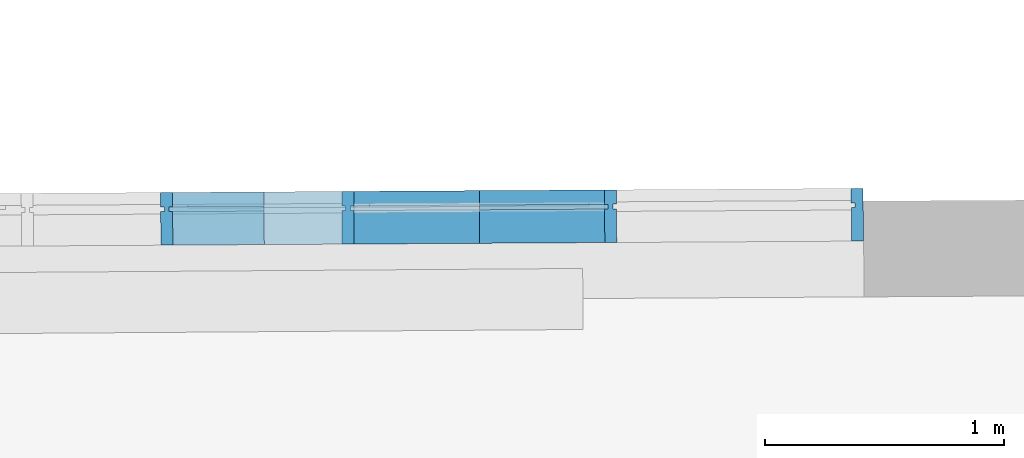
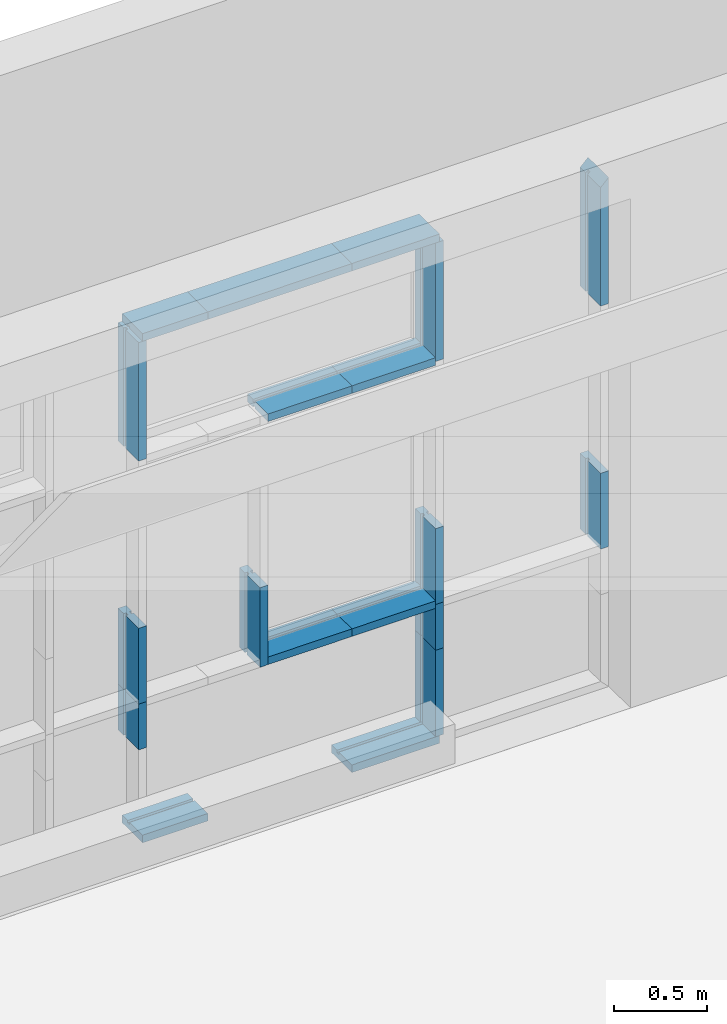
# One storey, part 164 of 196: 19 building element parts, 1 element without a shape of its own.
"""IFC2X3 building model written with IfcOpenShell, lengths in metres."""

import ifcopenshell
import ifcopenshell.guid

model = None  # the IFC model being written
_history = None  # IfcOwnerHistory: only IFC2X3 demands one
_inside = {}  # id of a spatial element -> (the spatial element, [elements in it])
_under = {}  # id of a project, library or spatial element -> (it, [spatial elements below it])
_declared = {}  # id of a project -> (the project, [libraries it declares])
_typed = {}  # id of a type object -> (the type object, [elements of that type])
_made_of = {}  # id of a material, layer set ... -> (it, [elements and type objects made of it])


def new_model(schema):
    """Start an empty IFC model of exactly this schema.

    Asked for "IFC4X3", IfcOpenShell would pick the latest addendum, in which some entities
    have other attributes; the version numbers below select the first issue.
    IFC2X3 requires an IfcOwnerHistory on every rooted entity: one is made here for all.
    """
    global model, _history
    if schema == "IFC4X3":
        model = ifcopenshell.file(schema_version=(4, 3, 0, 0))
    else:
        model = ifcopenshell.file(schema=schema)
    _inside.clear()
    _under.clear()
    _declared.clear()
    _typed.clear()
    _made_of.clear()
    _history = None
    if model.schema == "IFC2X3":
        org = make("IfcOrganization", Name="unknown")
        user = make(
            "IfcPersonAndOrganization",
            ThePerson=make("IfcPerson", FamilyName="unknown"),
            TheOrganization=org,
        )
        app = make(
            "IfcApplication",
            ApplicationDeveloper=org,
            Version="unknown",
            ApplicationFullName="unknown",
            ApplicationIdentifier="unknown",
        )
        _history = make(
            "IfcOwnerHistory",
            OwningUser=user,
            OwningApplication=app,
            ChangeAction="ADDED",
            CreationDate=0,
        )
    return model


def make(cls, **values):
    """One entity of the class cls with the attributes given. An attribute that is None is left unset."""
    return model.create_entity(
        cls, **{name: value for name, value in values.items() if value is not None}
    )


def entity(cls, *values):
    """Any entity or typed value of the class cls, its attributes in the order of the schema. None: left unset."""
    e = model.create_entity(cls)
    for i, value in enumerate(values):
        if value is not None:
            e[i] = value
    return e


def rooted(cls, **values):
    """An entity with a GlobalId (a new one), such as an element, a storey or a relation."""
    return make(cls, GlobalId=ifcopenshell.guid.new(), OwnerHistory=_history, **values)


def si_unit(unit_type, name, prefix=None):
    """IfcSIUnit, for example si_unit("LENGTHUNIT", "METRE", prefix="MILLI")."""
    return make("IfcSIUnit", UnitType=unit_type, Prefix=prefix, Name=name)


def converted_unit(unit_type, name, factor, base, dimensions=None, offset=None):
    """IfcConversionBasedUnit, such as the inch: factor (a typed value) times the base unit."""
    return make(
        "IfcConversionBasedUnit"
        if offset is None
        else "IfcConversionBasedUnitWithOffset",
        ConversionOffset=offset,
        Dimensions=None
        if dimensions is None
        else entity("IfcDimensionalExponents", *dimensions),
        UnitType=unit_type,
        Name=name,
        ConversionFactor=make(
            "IfcMeasureWithUnit", ValueComponent=factor, UnitComponent=base
        ),
    )


def derived_unit(unit_type, elements):
    """IfcDerivedUnit: a product of units, each with its exponent."""
    return make(
        "IfcDerivedUnit",
        Elements=[
            make("IfcDerivedUnitElement", Unit=unit, Exponent=power)
            for unit, power in elements
        ],
        UnitType=unit_type,
    )


def money_unit(currency):
    """IfcMonetaryUnit."""
    return make("IfcMonetaryUnit", Currency=currency)


def assignment(units):
    """IfcUnitAssignment: the units of a project."""
    return None if units is None else make("IfcUnitAssignment", Units=units)


def point(xyz):
    """IfcCartesianPoint."""
    return None if xyz is None else make("IfcCartesianPoint", Coordinates=xyz)


def direction(xyz):
    """IfcDirection."""
    return None if xyz is None else make("IfcDirection", DirectionRatios=xyz)


def frame(location, z_axis=None, x_axis=None):
    """IfcAxis2Placement3D, a coordinate frame: its origin and axes. An axis left out is left unset."""
    return make(
        "IfcAxis2Placement3D",
        Location=point(location),
        Axis=direction(z_axis),
        RefDirection=direction(x_axis),
    )


def origin_with_axes():
    """The frame at (0, 0, 0) with the z axis (0, 0, 1) and the x axis (1, 0, 0) written out."""
    return frame((0.0, 0.0, 0.0), z_axis=(0.0, 0.0, 1.0), x_axis=(1.0, 0.0, 0.0))


def place(relative_to, where):
    """IfcLocalPlacement: puts the frame where relative to a parent placement (None: the world)."""
    return make(
        "IfcLocalPlacement", PlacementRelTo=relative_to, RelativePlacement=where
    )


def context(
    kind, dimensions, precision=None, world=None, true_north=None, identifier=None
):
    """IfcGeometricRepresentationContext, for example the 3D "Model" context."""
    return make(
        "IfcGeometricRepresentationContext",
        ContextIdentifier=identifier,
        ContextType=kind,
        CoordinateSpaceDimension=dimensions,
        Precision=precision,
        WorldCoordinateSystem=world,
        TrueNorth=true_north,
    )


def subcontext(parent, identifier, kind, view, scale=None):
    """IfcGeometricRepresentationSubContext, for example "Body" below "Model"."""
    return make(
        "IfcGeometricRepresentationSubContext",
        ContextIdentifier=identifier,
        ContextType=kind,
        ParentContext=parent,
        TargetScale=scale,
        TargetView=view,
    )


def project(units=None, contexts=None):
    """IfcProject with its units and contexts."""
    return rooted(
        "IfcProject",
        Name="project",
        RepresentationContexts=contexts,
        UnitsInContext=assignment(units),
    )


def spatial(cls, under=None, at=None, **own):
    """A site, building, storey or space (cls), placed at a placement, below another one or the project."""
    s = rooted(cls, ObjectPlacement=at, **own)
    if under is not None:
        _under.setdefault(under.id(), (under, []))[1].append(s)
    return s


def faces_of(points, faces, orient=None, outer=None):
    """IfcFace entities. A face is a list of loops; a loop is a list of indices into points, from 0.

    orient and outer hold one flag for each loop. By default every Orientation is true, the
    first loop of a face is its IfcFaceOuterBound and the others are IfcFaceBound.
    """
    made = []
    for i, loops in enumerate(faces):
        bounds = []
        for j, loop in enumerate(loops):
            is_outer = j == 0 if outer is None else outer[i][j]
            bounds.append(
                make(
                    "IfcFaceOuterBound" if is_outer else "IfcFaceBound",
                    Bound=make("IfcPolyLoop", Polygon=[points[k] for k in loop]),
                    Orientation=True if orient is None else orient[i][j],
                )
            )
        made.append(make("IfcFace", Bounds=bounds))
    return made


def faceted_brep(points, faces, orient=None, outer=None, voids=None):
    """IfcFacetedBrep: a solid bounded by flat faces; with voids (closed shells), ...WithVoids."""
    shared = [point(p) for p in points]
    hull = make("IfcClosedShell", CfsFaces=faces_of(shared, faces, orient, outer))
    if voids is None:
        return make("IfcFacetedBrep", Outer=hull)
    return make(
        "IfcFacetedBrepWithVoids",
        Outer=hull,
        Voids=[
            make(cls, CfsFaces=faces_of(shared, fs, o, b)) for cls, fs, o, b in voids
        ],
    )


def shape(context_of_items, identifier, shape_type, items):
    """IfcShapeRepresentation: the items that make up one representation, for example the "Body"."""
    return make(
        "IfcShapeRepresentation",
        ContextOfItems=context_of_items,
        RepresentationIdentifier=identifier,
        RepresentationType=shape_type,
        Items=items,
    )


def material(Name=None, Category=None):
    """IfcMaterial."""
    return make("IfcMaterial", Name=Name, Category=Category)


def made_of(thing, what):
    """Note that an element or type object is made of a material, layer set ...; save() writes the relation."""
    if what is not None:
        _made_of.setdefault(what.id(), (what, []))[1].append(thing)
    return thing


def type_object(cls, material=None, **own):
    """A type object (cls), such as IfcWallType, which elements share."""
    return made_of(rooted(cls, **own), material)


def element(
    cls,
    number,
    at=None,
    inside=None,
    cuts=None,
    type_object=None,
    material=None,
    context=None,
    identifier="Body",
    shape_type=None,
    held_by="IfcProductDefinitionShape",
    body=None,
    shapes=None,
    **own,
):
    """One element of the class cls, such as IfcWall. Its Tag is "e" and its number.

    at: its placement. inside: the storey or other place that contains it. cuts: it is an
    opening in that element (IfcRelVoidsElement). A single representation is given by context,
    identifier, shape_type and body (its items); several are given by shapes. held_by: the class
    of the entity that holds the representations. save() writes the other relations.
    """
    e = rooted(cls, Tag="e%d" % number, ObjectPlacement=at, **own)
    if body is not None:
        shapes = [shape(context, identifier, shape_type, body)]
    if shapes is not None:
        e.Representation = make(held_by, Representations=shapes)
    if inside is not None:
        _inside.setdefault(inside.id(), (inside, []))[1].append(e)
    if cuts is not None:
        rooted(
            "IfcRelVoidsElement", RelatingBuildingElement=cuts, RelatedOpeningElement=e
        )
    if type_object is not None:
        _typed.setdefault(type_object.id(), (type_object, []))[1].append(e)
    return made_of(e, material)


def aggregate(whole, parts):
    """IfcRelAggregates: a whole, such as a stair, and the parts it consists of."""
    return rooted("IfcRelAggregates", RelatingObject=whole, RelatedObjects=parts)


def save(model, path):
    """Write the relations noted so far, then the file.

    IfcRelAggregates (storeys below a building ...), IfcRelContainedInSpatialStructure (elements
    in a storey), IfcRelDefinesByType, IfcRelAssociatesMaterial and IfcRelDeclares: one each for
    every whole, place, type object, material and project.
    """
    for whole, parts in _under.values():
        aggregate(whole, parts)
    for where, things in _inside.values():
        rooted(
            "IfcRelContainedInSpatialStructure",
            RelatedElements=things,
            RelatingStructure=where,
        )
    for kind, things in _typed.values():
        rooted("IfcRelDefinesByType", RelatedObjects=things, RelatingType=kind)
    for what, things in _made_of.values():
        rooted("IfcRelAssociatesMaterial", RelatedObjects=things, RelatingMaterial=what)
    for by, libraries in _declared.values():
        rooted("IfcRelDeclares", RelatingContext=by, RelatedDefinitions=libraries)
    model.write(path)


model = new_model("IFC2X3")

# Units and contexts
model_context = context("Model", 3, precision=1e-05, world=origin_with_axes(), true_north=direction((0.0, 1.0)))
body_context = subcontext(model_context, "Body", "Model", "MODEL_VIEW")
ifc_project = project(units=[si_unit("LENGTHUNIT", "METRE"), si_unit("AREAUNIT", "SQUARE_METRE"), si_unit("VOLUMEUNIT", "CUBIC_METRE"), converted_unit("PLANEANGLEUNIT", "DEGREE", entity("IfcPlaneAngleMeasure", 0.0174532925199), si_unit("PLANEANGLEUNIT", "RADIAN"), dimensions=[0, 0, 0, 0, 0, 0, 0]), money_unit("EUR"), converted_unit("TIMEUNIT", "Year", entity("IfcTimeMeasure", 31556926.0), si_unit("TIMEUNIT", "SECOND"), dimensions=[0, 0, 1, 0, 0, 0, 0]), si_unit("MASSUNIT", "GRAM", prefix="KILO"), si_unit("THERMODYNAMICTEMPERATUREUNIT", "DEGREE_CELSIUS"), si_unit("LUMINOUSINTENSITYUNIT", "LUMEN"), si_unit("ENERGYUNIT", "JOULE", prefix="MEGA"), derived_unit("THERMALCONDUCTANCEUNIT", [(si_unit("POWERUNIT", "WATT"), 1), (si_unit("LENGTHUNIT", "METRE"), -1), (si_unit("THERMODYNAMICTEMPERATUREUNIT", "KELVIN"), -1)]), derived_unit("SPECIFICHEATCAPACITYUNIT", [(si_unit("ENERGYUNIT", "JOULE"), 1), (si_unit("MASSUNIT", "GRAM", prefix="KILO"), -1), (si_unit("THERMODYNAMICTEMPERATUREUNIT", "KELVIN"), -1)]), derived_unit("MASSDENSITYUNIT", [(si_unit("MASSUNIT", "GRAM", prefix="KILO"), 1), (si_unit("VOLUMEUNIT", "CUBIC_METRE"), -1)])], contexts=[model_context])

# Site, building, storey
site_placement = place(None, origin_with_axes())
site = spatial("IfcSite", under=ifc_project, at=site_placement, Name="Gelände", CompositionType="ELEMENT")
building_placement = place(site_placement, origin_with_axes())
building = spatial("IfcBuilding", under=site, at=building_placement, Name="Gebäude", CompositionType="ELEMENT")
storey_placement = place(building_placement, frame((0.0, 0.0, -3.0), z_axis=(0.0, 0.0, 1.0), x_axis=(1.0, 0.0, 0.0)))
storey = spatial("IfcBuildingStorey", under=building, at=storey_placement, Name="KELLERGESCHOSS", CompositionType="ELEMENT", Elevation=-3.0)

# Proxy, building element parts
building_element_proxy_type = type_object("IfcBuildingElementProxyType", Name="Fassadentyp", PredefinedType="NOTDEFINED")
proxy_placement = place(storey_placement, frame((-23.6479994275, 53.9595773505, 0.421025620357), z_axis=(0.0, 0.0, 1.0), x_axis=(1.0, 0.0, 0.0)))
proxy = element("IfcBuildingElementProxy", 1, at=proxy_placement, inside=storey, type_object=building_element_proxy_type, Name="Fassade-002")
ifc_material = material(Name="53_Metall, Aluminium")
building_element_part_1_placement = place(proxy_placement, origin_with_axes())
building_element_part_1 = element("IfcBuildingElementPart", 2, at=building_element_part_1_placement, material=ifc_material, Name="53_Metall, Aluminium", context=body_context, shape_type="Brep", body=[
    faceted_brep([(1.91695860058, 0.00132457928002, 2.50999998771), (1.91695860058, 0.00132457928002, 2.49499998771), (1.91778566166, -0.138672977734, 2.49499998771), (1.91778566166, -0.138672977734, 2.54499998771), (1.91695860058, 0.00132457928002, 2.54499998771), (1.91695860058, 0.00132457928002, 2.52999998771), (1.91684044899, 0.0213242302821, 2.52999998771), (1.91684044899, 0.0213242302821, 2.54499998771), (1.91648599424, 0.0813231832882, 2.54499998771), (1.91648599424, 0.0813231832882, 2.49499998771), (1.91684044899, 0.0213242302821, 2.49499998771), (1.91684044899, 0.0213242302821, 2.50999998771), (2.44175495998, 0.00442490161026, 2.50999998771), (2.44175495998, 0.00442490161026, 2.49499998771), (2.44258201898, -0.135572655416, 2.49499998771), (2.44258201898, -0.135572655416, 2.54499998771), (2.44175495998, 0.00442490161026, 2.54499998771), (2.44175495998, 0.00442490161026, 2.52999998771), (2.44163680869, 0.0244245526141, 2.52999998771), (2.44163680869, 0.0244245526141, 2.54499998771), (2.44128235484, 0.0844235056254, 2.54499998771), (2.44128235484, 0.0844235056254, 2.49499998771), (2.44163680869, 0.0244245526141, 2.49499998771), (2.44163680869, 0.0244245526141, 2.50999998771)], [[[0, 1, 2, 3, 4, 5, 6, 7, 8, 9, 10, 11]], [[1, 0, 12, 13]], [[1, 13, 14, 2]], [[3, 2, 14, 15]], [[4, 3, 15, 16]], [[4, 16, 17, 5]], [[5, 17, 18, 6]], [[7, 6, 18, 19]], [[19, 20, 8, 7]], [[9, 8, 20, 21]], [[22, 10, 9, 21]], [[11, 10, 22, 23]], [[0, 11, 23, 12]], [[23, 22, 21, 20, 19, 18, 17, 16, 15, 14, 13, 12]]]),
])
building_element_part_2_placement = place(proxy_placement, origin_with_axes())
building_element_part_2 = element("IfcBuildingElementPart", 3, at=building_element_part_2_placement, material=ifc_material, Name="53_Metall, Aluminium", context=body_context, shape_type="Brep", body=[
    faceted_brep([(2.44175495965, 0.00442490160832, 0.910851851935), (2.44175495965, 0.00442490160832, 0.895851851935), (2.44258201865, -0.135572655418, 0.895851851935), (2.44258201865, -0.135572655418, 0.945851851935), (2.44175495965, 0.00442490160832, 0.945851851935), (2.44175495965, 0.00442490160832, 0.930851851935), (2.44163680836, 0.0244245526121, 0.930851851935), (2.44163680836, 0.0244245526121, 0.945851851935), (2.44128235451, 0.0844235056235, 0.945851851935), (2.44128235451, 0.0844235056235, 0.895851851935), (2.44163680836, 0.0244245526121, 0.895851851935), (2.44163680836, 0.0244245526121, 0.910851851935), (2.96439194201, 0.00751246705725, 0.910851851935), (2.96439194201, 0.00751246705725, 0.895851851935), (2.96521900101, -0.132485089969, 0.895851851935), (2.96521900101, -0.132485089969, 0.945851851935), (2.96439194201, 0.00751246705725, 0.945851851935), (2.96439194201, 0.00751246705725, 0.930851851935), (2.96427379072, 0.027512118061, 0.930851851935), (2.96427379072, 0.027512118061, 0.945851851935), (2.96391933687, 0.0875110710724, 0.945851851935), (2.96391933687, 0.0875110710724, 0.895851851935), (2.96427379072, 0.027512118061, 0.895851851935), (2.96427379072, 0.027512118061, 0.910851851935)], [[[0, 1, 2, 3, 4, 5, 6, 7, 8, 9, 10, 11]], [[1, 0, 12, 13]], [[1, 13, 14, 2]], [[2, 14, 15, 3]], [[4, 3, 15, 16]], [[4, 16, 17, 5]], [[5, 17, 18, 6]], [[7, 6, 18, 19]], [[19, 20, 8, 7]], [[8, 20, 21, 9]], [[22, 10, 9, 21]], [[11, 10, 22, 23]], [[0, 11, 23, 12]], [[23, 22, 21, 20, 19, 18, 17, 16, 15, 14, 13, 12]]]),
])
building_element_part_3_placement = place(proxy_placement, origin_with_axes())
building_element_part_3 = element("IfcBuildingElementPart", 4, at=building_element_part_3_placement, material=ifc_material, Name="53_Metall, Aluminium", context=body_context, shape_type="Brep", body=[
    faceted_brep([(2.97939168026, 0.00760108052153, 1.41999999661), (2.96439194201, 0.00751246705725, 1.41999999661), (2.96521900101, -0.132485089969, 1.41999999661), (3.01521812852, -0.132189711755, 1.41999999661), (3.01439106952, 0.00780784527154, 1.41999999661), (2.99939133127, 0.00771923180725, 1.41999999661), (2.99927317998, 0.0277188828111, 1.41999999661), (3.01427291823, 0.0278074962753, 1.41999999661), (3.01391846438, 0.0878064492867, 1.41999999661), (2.96391933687, 0.0875110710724, 1.41999999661), (2.96427379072, 0.027512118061, 1.41999999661), (2.97927352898, 0.0276007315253, 1.41999999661), (2.97939168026, 0.00760108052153, 0.920851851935), (2.96439194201, 0.00751246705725, 0.920851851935), (2.96521900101, -0.132485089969, 0.920851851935), (3.01521812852, -0.132189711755, 0.920851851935), (3.01439106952, 0.00780784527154, 0.920851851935), (2.99939133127, 0.00771923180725, 0.920851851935), (2.99927317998, 0.0277188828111, 0.920851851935), (3.01427291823, 0.0278074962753, 0.920851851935), (3.01391846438, 0.0878064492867, 0.920851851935), (2.96391933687, 0.0875110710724, 0.920851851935), (2.96427379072, 0.027512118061, 0.920851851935), (2.97927352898, 0.0276007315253, 0.920851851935)], [[[0, 1, 2, 3, 4, 5, 6, 7, 8, 9, 10, 11]], [[1, 0, 12, 13]], [[1, 13, 14, 2]], [[3, 2, 14, 15]], [[4, 3, 15, 16]], [[4, 16, 17, 5]], [[5, 17, 18, 6]], [[7, 6, 18, 19]], [[19, 20, 8, 7]], [[9, 8, 20, 21]], [[22, 10, 9, 21]], [[11, 10, 22, 23]], [[0, 11, 23, 12]], [[23, 22, 21, 20, 19, 18, 17, 16, 15, 14, 13, 12]]]),
])
building_element_part_4_placement = place(proxy_placement, origin_with_axes())
building_element_part_4 = element("IfcBuildingElementPart", 5, at=building_element_part_4_placement, material=ifc_material, Name="53_Metall, Aluminium", context=body_context, shape_type="Brep", body=[
    faceted_brep([(1.91695860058, 0.00132457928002, 0.910851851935), (1.91695860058, 0.00132457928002, 0.895851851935), (1.91778566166, -0.138672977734, 0.895851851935), (1.91778566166, -0.138672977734, 0.945851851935), (1.91695860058, 0.00132457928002, 0.945851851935), (1.91695860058, 0.00132457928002, 0.930851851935), (1.91684044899, 0.0213242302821, 0.930851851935), (1.91684044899, 0.0213242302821, 0.945851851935), (1.91648599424, 0.0813231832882, 0.945851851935), (1.91648599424, 0.0813231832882, 0.895851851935), (1.91684044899, 0.0213242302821, 0.895851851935), (1.91684044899, 0.0213242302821, 0.910851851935), (2.44175495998, 0.00442490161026, 0.910851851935), (2.44175495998, 0.00442490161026, 0.895851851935), (2.44258201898, -0.135572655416, 0.895851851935), (2.44258201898, -0.135572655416, 0.945851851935), (2.44175495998, 0.00442490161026, 0.945851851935), (2.44175495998, 0.00442490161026, 0.930851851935), (2.44163680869, 0.0244245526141, 0.930851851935), (2.44163680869, 0.0244245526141, 0.945851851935), (2.44128235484, 0.0844235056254, 0.945851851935), (2.44128235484, 0.0844235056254, 0.895851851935), (2.44163680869, 0.0244245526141, 0.895851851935), (2.44163680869, 0.0244245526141, 0.910851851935)], [[[0, 1, 2, 3, 4, 5, 6, 7, 8, 9, 10, 11]], [[1, 0, 12, 13]], [[1, 13, 14, 2]], [[3, 2, 14, 15]], [[4, 3, 15, 16]], [[4, 16, 17, 5]], [[5, 17, 18, 6]], [[7, 6, 18, 19]], [[19, 20, 8, 7]], [[9, 8, 20, 21]], [[22, 10, 9, 21]], [[11, 10, 22, 23]], [[0, 11, 23, 12]], [[23, 22, 21, 20, 19, 18, 17, 16, 15, 14, 13, 12]]]),
])
building_element_part_5_placement = place(proxy_placement, origin_with_axes())
building_element_part_5 = element("IfcBuildingElementPart", 6, at=building_element_part_5_placement, material=ifc_material, Name="53_Metall, Aluminium", context=body_context, shape_type="Brep", body=[
    faceted_brep([(2.97939168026, 0.00760108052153, 0.620000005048), (2.96439194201, 0.00751246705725, 0.620000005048), (2.96521900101, -0.132485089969, 0.620000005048), (3.01521812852, -0.132189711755, 0.620000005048), (3.01439106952, 0.00780784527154, 0.620000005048), (2.99939133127, 0.00771923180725, 0.620000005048), (2.99927317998, 0.0277188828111, 0.620000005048), (3.01427291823, 0.0278074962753, 0.620000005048), (3.01391846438, 0.0878064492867, 0.620000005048), (2.96391933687, 0.0875110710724, 0.620000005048), (2.96427379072, 0.027512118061, 0.620000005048), (2.97927352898, 0.0276007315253, 0.620000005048), (2.97939168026, 0.00760108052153, 0.049999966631), (2.96439194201, 0.00751246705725, 0.049999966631), (2.96521900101, -0.132485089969, 0.0499999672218), (3.01521812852, -0.132189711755, 0.0499999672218), (3.01439106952, 0.00780784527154, 0.049999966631), (2.99939133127, 0.00771923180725, 0.049999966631), (2.99927317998, 0.0277188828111, 0.0499999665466), (3.01427291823, 0.0278074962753, 0.0499999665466), (3.01391846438, 0.0878064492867, 0.0499999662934), (2.96391933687, 0.0875110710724, 0.0499999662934), (2.96427379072, 0.027512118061, 0.0499999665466), (2.97927352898, 0.0276007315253, 0.0499999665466)], [[[0, 1, 2, 3, 4, 5, 6, 7, 8, 9, 10, 11]], [[1, 0, 12, 13]], [[1, 13, 14, 2]], [[2, 14, 15, 3]], [[4, 3, 15, 16]], [[4, 16, 17, 5]], [[5, 17, 18, 6]], [[7, 6, 18, 19]], [[19, 20, 8, 7]], [[8, 20, 21, 9]], [[22, 10, 9, 21]], [[11, 10, 22, 23]], [[0, 11, 23, 12]], [[23, 22, 21, 20, 19, 18, 17, 16, 15, 14, 13, 12]]]),
])
building_element_part_6_placement = place(proxy_placement, origin_with_axes())
building_element_part_6 = element("IfcBuildingElementPart", 7, at=building_element_part_6_placement, material=ifc_material, Name="53_Metall, Aluminium", context=body_context, shape_type="Brep", body=[
    faceted_brep([(2.97939168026, 0.00760108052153, 0.920851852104), (2.96439194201, 0.00751246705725, 0.920851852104), (2.96521900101, -0.132485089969, 0.920851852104), (3.01521812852, -0.132189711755, 0.920851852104), (3.01439106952, 0.00780784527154, 0.920851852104), (2.99939133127, 0.00771923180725, 0.920851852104), (2.99927317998, 0.0277188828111, 0.920851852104), (3.01427291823, 0.0278074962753, 0.920851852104), (3.01391846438, 0.0878064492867, 0.920851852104), (2.96391933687, 0.0875110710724, 0.920851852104), (2.96427379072, 0.027512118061, 0.920851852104), (2.97927352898, 0.0276007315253, 0.920851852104), (2.97939168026, 0.00760108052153, 0.619999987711), (2.96439194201, 0.00751246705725, 0.619999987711), (2.96521900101, -0.132485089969, 0.619999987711), (3.01521812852, -0.132189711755, 0.619999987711), (3.01439106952, 0.00780784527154, 0.619999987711), (2.99939133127, 0.00771923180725, 0.619999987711), (2.99927317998, 0.0277188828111, 0.619999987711), (3.01427291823, 0.0278074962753, 0.619999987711), (3.01391846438, 0.0878064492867, 0.619999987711), (2.96391933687, 0.0875110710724, 0.619999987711), (2.96427379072, 0.027512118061, 0.619999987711), (2.97927352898, 0.0276007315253, 0.619999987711)], [[[0, 1, 2, 3, 4, 5, 6, 7, 8, 9, 10, 11]], [[1, 0, 12, 13]], [[1, 13, 14, 2]], [[3, 2, 14, 15]], [[4, 3, 15, 16]], [[4, 16, 17, 5]], [[5, 17, 18, 6]], [[7, 6, 18, 19]], [[19, 20, 8, 7]], [[9, 8, 20, 21]], [[22, 10, 9, 21]], [[11, 10, 22, 23]], [[0, 11, 23, 12]], [[23, 22, 21, 20, 19, 18, 17, 16, 15, 14, 13, 12]]]),
])
building_element_part_7_placement = place(proxy_placement, origin_with_axes())
building_element_part_7 = element("IfcBuildingElementPart", 8, at=building_element_part_7_placement, material=ifc_material, Name="53_Metall, Aluminium", context=body_context, shape_type="Brep", body=[
    faceted_brep([(1.12484163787, -0.00335498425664, 3.2999998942), (1.10984189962, -0.00344359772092, 3.2999998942), (1.11066895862, -0.143441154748, 3.2999998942), (1.16066808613, -0.143145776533, 3.2999998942), (1.15984102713, -0.00314821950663, 3.2999998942), (1.14484128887, -0.00323683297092, 3.2999998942), (1.14472313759, 0.0167628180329, 3.2999998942), (1.15972287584, 0.0168514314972, 3.2999998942), (1.15936842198, 0.0768503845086, 3.2999998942), (1.10936929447, 0.0765550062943, 3.2999998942), (1.10972374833, 0.0165560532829, 3.2999998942), (1.12472348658, 0.0166446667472, 3.2999998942), (1.12484163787, -0.00335498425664, 2.51999998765), (1.10984189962, -0.00344359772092, 2.51999998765), (1.11066895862, -0.143441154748, 2.51999998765), (1.16066808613, -0.143145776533, 2.51999998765), (1.15984102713, -0.00314821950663, 2.51999998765), (1.14484128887, -0.00323683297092, 2.51999998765), (1.14472313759, 0.0167628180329, 2.51999998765), (1.15972287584, 0.0168514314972, 2.51999998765), (1.15936842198, 0.0768503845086, 2.51999998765), (1.10936929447, 0.0765550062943, 2.51999998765), (1.10972374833, 0.0165560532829, 2.51999998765), (1.12472348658, 0.0166446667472, 2.51999998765)], [[[0, 1, 2, 3, 4, 5, 6, 7, 8, 9, 10, 11]], [[1, 0, 12, 13]], [[1, 13, 14, 2]], [[3, 2, 14, 15]], [[4, 3, 15, 16]], [[4, 16, 17, 5]], [[5, 17, 18, 6]], [[7, 6, 18, 19]], [[19, 20, 8, 7]], [[9, 8, 20, 21]], [[22, 10, 9, 21]], [[11, 10, 22, 23]], [[0, 11, 23, 12]], [[23, 22, 21, 20, 19, 18, 17, 16, 15, 14, 13, 12]]]),
])
building_element_part_8_placement = place(proxy_placement, origin_with_axes())
building_element_part_8 = element("IfcBuildingElementPart", 9, at=building_element_part_8_placement, material=ifc_material, Name="53_Metall, Aluminium", context=body_context, shape_type="Brep", body=[
    faceted_brep([(1.88195922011, 0.00111781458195, 1.41999999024), (1.86695948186, 0.00102920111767, 1.41999999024), (1.86778654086, -0.138968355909, 1.41999999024), (1.91778566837, -0.138672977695, 1.41999999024), (1.91695860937, 0.00132457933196, 1.41999999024), (1.90195887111, 0.00123596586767, 1.41999999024), (1.90184071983, 0.0212356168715, 1.41999999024), (1.91684045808, 0.0213242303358, 1.41999999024), (1.91648600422, 0.0813231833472, 1.41999999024), (1.86648687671, 0.0810278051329, 1.41999999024), (1.86684133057, 0.0210288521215, 1.41999999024), (1.88184106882, 0.0211174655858, 1.41999999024), (1.88195922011, 0.00111781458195, 0.895851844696), (1.86695948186, 0.00102920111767, 0.895851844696), (1.86778654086, -0.138968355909, 0.895851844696), (1.91778566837, -0.138672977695, 0.895851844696), (1.91695860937, 0.00132457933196, 0.895851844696), (1.90195887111, 0.00123596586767, 0.895851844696), (1.90184071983, 0.0212356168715, 0.895851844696), (1.91684045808, 0.0213242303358, 0.895851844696), (1.91648600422, 0.0813231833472, 0.895851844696), (1.86648687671, 0.0810278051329, 0.895851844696), (1.86684133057, 0.0210288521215, 0.895851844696), (1.88184106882, 0.0211174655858, 0.895851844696)], [[[0, 1, 2, 3, 4, 5, 6, 7, 8, 9, 10, 11]], [[1, 0, 12, 13]], [[1, 13, 14, 2]], [[3, 2, 14, 15]], [[4, 3, 15, 16]], [[4, 16, 17, 5]], [[5, 17, 18, 6]], [[7, 6, 18, 19]], [[19, 20, 8, 7]], [[9, 8, 20, 21]], [[22, 10, 9, 21]], [[11, 10, 22, 23]], [[0, 11, 23, 12]], [[23, 22, 21, 20, 19, 18, 17, 16, 15, 14, 13, 12]]]),
])
building_element_part_9_placement = place(proxy_placement, origin_with_axes())
building_element_part_9 = element("IfcBuildingElementPart", 10, at=building_element_part_9_placement, material=ifc_material, Name="53_Metall, Aluminium", context=body_context, shape_type="Brep", body=[
    faceted_brep([(1.13484146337, -0.00329590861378, 3.31499989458), (1.13484146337, -0.00329590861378, 3.29999989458), (1.13566852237, -0.14329346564, 3.29999989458), (1.13566852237, -0.14329346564, 3.34999989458), (1.13436885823, 0.0767026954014, 3.34999989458), (1.13436885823, 0.0767026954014, 3.29999989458), (1.13472331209, 0.01670374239, 3.29999989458), (1.13472331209, 0.01670374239, 3.31499989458), (1.54177066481, -0.000891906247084, 3.31499989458), (1.54177066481, -0.000891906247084, 3.29999989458), (1.54259772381, -0.140889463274, 3.29999989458), (1.54259772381, -0.140889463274, 3.34999989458), (1.54129805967, 0.0791066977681, 3.34999989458), (1.54129805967, 0.0791066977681, 3.29999989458), (1.54165251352, 0.0191077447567, 3.29999989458), (1.54165251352, 0.0191077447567, 3.31499989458)], [[[0, 1, 2, 3, 4, 5, 6, 7]], [[0, 8, 9, 1]], [[9, 10, 2, 1]], [[10, 11, 3, 2]], [[11, 12, 4, 3]], [[12, 13, 5, 4]], [[6, 5, 13, 14]], [[14, 15, 7, 6]], [[7, 15, 8, 0]], [[8, 15, 14, 13, 12, 11, 10, 9]]]),
])
building_element_part_10_placement = place(proxy_placement, origin_with_axes())
building_element_part_10 = element("IfcBuildingElementPart", 11, at=building_element_part_10_placement, material=ifc_material, Name="53_Metall, Aluminium", context=body_context, shape_type="Brep", body=[
    faceted_brep([(2.44175495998, 0.00442490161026, 3.31499989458), (2.44175495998, 0.00442490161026, 3.29999989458), (2.44258201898, -0.135572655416, 3.29999989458), (2.44258201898, -0.135572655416, 3.34999989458), (2.44128235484, 0.0844235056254, 3.34999989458), (2.44128235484, 0.0844235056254, 3.29999989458), (2.44163680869, 0.0244245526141, 3.29999989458), (2.44163680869, 0.0244245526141, 3.31499989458), (2.98939150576, 0.00766015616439, 3.31499989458), (2.98939150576, 0.00766015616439, 3.29999989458), (2.99021856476, -0.132337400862, 3.29999989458), (2.99021856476, -0.132337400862, 3.34999989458), (2.98891890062, 0.0876587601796, 3.34999989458), (2.98891890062, 0.0876587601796, 3.29999989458), (2.98927335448, 0.0276598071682, 3.29999989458), (2.98927335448, 0.0276598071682, 3.31499989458)], [[[0, 1, 2, 3, 4, 5, 6, 7]], [[0, 8, 9, 1]], [[9, 10, 2, 1]], [[10, 11, 3, 2]], [[11, 12, 4, 3]], [[12, 13, 5, 4]], [[6, 5, 13, 14]], [[14, 15, 7, 6]], [[7, 15, 8, 0]], [[8, 15, 14, 13, 12, 11, 10, 9]]]),
])
building_element_part_11_placement = place(proxy_placement, origin_with_axes())
building_element_part_11 = element("IfcBuildingElementPart", 12, at=building_element_part_11_placement, material=ifc_material, Name="53_Metall, Aluminium", context=body_context, shape_type="Brep", body=[
    faceted_brep([(4.00979148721, 0.0136883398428, 1.41999999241), (3.99479174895, 0.0135997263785, 1.41999999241), (3.99561880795, -0.126397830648, 1.41999999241), (4.04561793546, -0.126102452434, 1.41999999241), (4.04431827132, 0.093893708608, 1.41999999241), (3.99431914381, 0.0935983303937, 1.41999999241), (3.99467359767, 0.0335993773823, 1.41999999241), (4.00967333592, 0.0336879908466, 1.41999999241), (4.00979148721, 0.0136883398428, 0.920851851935), (3.99479174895, 0.0135997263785, 0.920851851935), (3.99561880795, -0.126397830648, 0.920851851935), (4.04561793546, -0.126102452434, 0.920851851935), (4.04431827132, 0.093893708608, 0.920851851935), (3.99431914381, 0.0935983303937, 0.920851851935), (3.99467359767, 0.0335993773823, 0.920851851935), (4.00967333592, 0.0336879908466, 0.920851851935)], [[[0, 1, 2, 3, 4, 5, 6, 7]], [[0, 8, 9, 1]], [[9, 10, 2, 1]], [[10, 11, 3, 2]], [[11, 12, 4, 3]], [[12, 13, 5, 4]], [[6, 5, 13, 14]], [[14, 15, 7, 6]], [[7, 15, 8, 0]], [[8, 15, 14, 13, 12, 11, 10, 9]]]),
])
building_element_part_12_placement = place(proxy_placement, origin_with_axes())
building_element_part_12 = element("IfcBuildingElementPart", 13, at=building_element_part_12_placement, material=ifc_material, Name="53_Metall, Aluminium", context=body_context, shape_type="Brep", body=[
    faceted_brep([(4.00979148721, 0.0136883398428, 3.31499992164), (3.99479174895, 0.0135997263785, 3.29999992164), (3.99561880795, -0.126397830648, 3.29999992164), (4.04561793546, -0.126102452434, 3.34999992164), (4.04431827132, 0.093893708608, 3.34999992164), (3.99431914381, 0.0935983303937, 3.29999992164), (3.99467359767, 0.0335993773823, 3.29999992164), (4.00967333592, 0.0336879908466, 3.31499992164), (4.00979148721, 0.0136883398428, 2.51999998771), (3.99479174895, 0.0135997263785, 2.51999998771), (3.99561880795, -0.126397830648, 2.51999998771), (4.04561793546, -0.126102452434, 2.51999998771), (4.04431827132, 0.093893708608, 2.51999998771), (3.99431914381, 0.0935983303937, 2.51999998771), (3.99467359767, 0.0335993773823, 2.51999998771), (4.00967333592, 0.0336879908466, 2.51999998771)], [[[0, 1, 2, 3, 4, 5, 6, 7]], [[0, 8, 9, 1]], [[9, 10, 2, 1]], [[10, 11, 3, 2]], [[11, 12, 4, 3]], [[12, 13, 5, 4]], [[6, 5, 13, 14]], [[14, 15, 7, 6]], [[7, 15, 8, 0]], [[8, 15, 14, 13, 12, 11, 10, 9]]]),
])
building_element_part_13_placement = place(proxy_placement, origin_with_axes())
building_element_part_13 = element("IfcBuildingElementPart", 14, at=building_element_part_13_placement, material=ifc_material, Name="53_Metall, Aluminium", context=body_context, shape_type="Brep", body=[
    faceted_brep([(1.54177066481, -0.000891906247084, 3.31499989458), (1.54177066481, -0.000891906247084, 3.29999989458), (1.54259772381, -0.140889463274, 3.29999989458), (1.54259772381, -0.140889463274, 3.34999989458), (1.54129805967, 0.0791066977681, 3.34999989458), (1.54129805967, 0.0791066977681, 3.29999989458), (1.54165251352, 0.0191077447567, 3.29999989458), (1.54165251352, 0.0191077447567, 3.31499989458), (2.44175495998, 0.00442490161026, 3.31499989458), (2.44175495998, 0.00442490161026, 3.29999989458), (2.44258201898, -0.135572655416, 3.29999989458), (2.44258201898, -0.135572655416, 3.34999989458), (2.44128235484, 0.0844235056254, 3.34999989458), (2.44128235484, 0.0844235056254, 3.29999989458), (2.44163680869, 0.0244245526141, 3.29999989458), (2.44163680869, 0.0244245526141, 3.31499989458)], [[[0, 1, 2, 3, 4, 5, 6, 7]], [[0, 8, 9, 1]], [[9, 10, 2, 1]], [[10, 11, 3, 2]], [[11, 12, 4, 3]], [[12, 13, 5, 4]], [[6, 5, 13, 14]], [[14, 15, 7, 6]], [[7, 15, 8, 0]], [[8, 15, 14, 13, 12, 11, 10, 9]]]),
])
building_element_part_14_placement = place(proxy_placement, origin_with_axes())
building_element_part_14 = element("IfcBuildingElementPart", 15, at=building_element_part_14_placement, material=ifc_material, Name="53_Metall, Aluminium", context=body_context, shape_type="Brep", body=[
    faceted_brep([(1.13484146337, -0.00329590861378, 0.034999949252), (1.13472331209, 0.01670374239, 0.034999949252), (1.13472331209, 0.01670374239, 0.049999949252), (1.13436885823, 0.0767026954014, 0.049999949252), (1.13436885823, 0.0767026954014, -5.07479946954e-08), (1.13566852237, -0.14329346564, -5.07479946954e-08), (1.13566852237, -0.14329346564, 0.049999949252), (1.13484146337, -0.00329590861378, 0.049999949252), (1.54177066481, -0.000891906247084, 0.034999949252), (1.54165251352, 0.0191077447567, 0.034999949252), (1.54165251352, 0.0191077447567, 0.049999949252), (1.54129805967, 0.0791066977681, 0.049999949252), (1.54129805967, 0.0791066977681, -5.07479946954e-08), (1.54259772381, -0.140889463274, -5.07479946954e-08), (1.54259772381, -0.140889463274, 0.049999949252), (1.54177066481, -0.000891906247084, 0.049999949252)], [[[0, 1, 2, 3, 4, 5, 6, 7]], [[1, 0, 8, 9]], [[10, 2, 1, 9]], [[2, 10, 11, 3]], [[12, 4, 3, 11]], [[13, 5, 4, 12]], [[14, 6, 5, 13]], [[15, 7, 6, 14]], [[0, 7, 15, 8]], [[8, 15, 14, 13, 12, 11, 10, 9]]]),
])
building_element_part_15_placement = place(proxy_placement, origin_with_axes())
building_element_part_15 = element("IfcBuildingElementPart", 16, at=building_element_part_15_placement, material=ifc_material, Name="53_Metall, Aluminium", context=body_context, shape_type="Brep", body=[
    faceted_brep([(2.44175495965, 0.00442490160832, 2.50999998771), (2.44175495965, 0.00442490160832, 2.49499998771), (2.44258201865, -0.135572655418, 2.49499998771), (2.44258201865, -0.135572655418, 2.54499998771), (2.44175495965, 0.00442490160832, 2.54499998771), (2.44175495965, 0.00442490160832, 2.52999998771), (2.44163680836, 0.0244245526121, 2.52999998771), (2.44163680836, 0.0244245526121, 2.54499998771), (2.44128235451, 0.0844235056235, 2.54499998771), (2.44128235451, 0.0844235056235, 2.49499998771), (2.44163680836, 0.0244245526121, 2.49499998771), (2.44163680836, 0.0244245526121, 2.50999998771), (2.96439194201, 0.00751246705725, 2.50999998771), (2.96439194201, 0.00751246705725, 2.49499998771), (2.96521900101, -0.132485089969, 2.49499998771), (2.96521900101, -0.132485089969, 2.54499998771), (2.96439194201, 0.00751246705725, 2.54499998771), (2.96439194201, 0.00751246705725, 2.52999998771), (2.96427379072, 0.027512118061, 2.52999998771), (2.96427379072, 0.027512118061, 2.54499998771), (2.96391933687, 0.0875110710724, 2.54499998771), (2.96391933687, 0.0875110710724, 2.49499998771), (2.96427379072, 0.027512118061, 2.49499998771), (2.96427379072, 0.027512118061, 2.50999998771)], [[[0, 1, 2, 3, 4, 5, 6, 7, 8, 9, 10, 11]], [[1, 0, 12, 13]], [[1, 13, 14, 2]], [[2, 14, 15, 3]], [[4, 3, 15, 16]], [[4, 16, 17, 5]], [[5, 17, 18, 6]], [[7, 6, 18, 19]], [[19, 20, 8, 7]], [[8, 20, 21, 9]], [[22, 10, 9, 21]], [[11, 10, 22, 23]], [[0, 11, 23, 12]], [[23, 22, 21, 20, 19, 18, 17, 16, 15, 14, 13, 12]]]),
])
building_element_part_16_placement = place(proxy_placement, origin_with_axes())
building_element_part_16 = element("IfcBuildingElementPart", 17, at=building_element_part_16_placement, material=ifc_material, Name="53_Metall, Aluminium", context=body_context, shape_type="Brep", body=[
    faceted_brep([(2.44175495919, 0.00442490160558, 0.0349999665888), (2.4416368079, 0.0244245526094, 0.0349999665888), (2.4416368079, 0.0244245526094, 0.0499999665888), (2.44128235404, 0.0844235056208, 0.0499999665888), (2.44128235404, 0.0844235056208, -3.34112297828e-08), (2.44258201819, -0.135572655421, -3.34112297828e-08), (2.44258201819, -0.135572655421, 0.0499999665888), (2.44175495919, 0.00442490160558, 0.0499999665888), (2.98939150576, 0.00766015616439, 0.0349999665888), (2.98927335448, 0.0276598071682, 0.0349999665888), (2.98927335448, 0.0276598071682, 0.0499999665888), (2.98891890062, 0.0876587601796, 0.0499999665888), (2.98891890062, 0.0876587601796, -3.34112297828e-08), (2.99021856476, -0.132337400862, -3.34112297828e-08), (2.99021856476, -0.132337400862, 0.0499999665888), (2.98939150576, 0.00766015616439, 0.0499999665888)], [[[0, 1, 2, 3, 4, 5, 6, 7]], [[1, 0, 8, 9]], [[10, 2, 1, 9]], [[2, 10, 11, 3]], [[12, 4, 3, 11]], [[13, 5, 4, 12]], [[14, 6, 5, 13]], [[15, 7, 6, 14]], [[0, 7, 15, 8]], [[8, 15, 14, 13, 12, 11, 10, 9]]]),
])
building_element_part_17_placement = place(proxy_placement, origin_with_axes())
building_element_part_17 = element("IfcBuildingElementPart", 18, at=building_element_part_17_placement, material=ifc_material, Name="53_Metall, Aluminium", context=body_context, shape_type="Brep", body=[
    faceted_brep([(1.1248416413, -0.00335498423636, 0.920851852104), (1.10984190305, -0.00344359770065, 0.920851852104), (1.11066896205, -0.143441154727, 0.920851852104), (1.16066808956, -0.143145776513, 0.920851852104), (1.15984103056, -0.00314821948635, 0.920851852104), (1.14484129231, -0.00323683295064, 0.920851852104), (1.14472314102, 0.0167628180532, 0.920851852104), (1.15972287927, 0.0168514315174, 0.920851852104), (1.15936842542, 0.0768503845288, 0.920851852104), (1.10936929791, 0.0765550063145, 0.920851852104), (1.10972375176, 0.0165560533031, 0.920851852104), (1.12472349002, 0.0166446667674, 0.920851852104), (1.1248416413, -0.00335498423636, 0.619999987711), (1.10984190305, -0.00344359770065, 0.619999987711), (1.11066896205, -0.143441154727, 0.619999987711), (1.16066808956, -0.143145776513, 0.619999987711), (1.15984103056, -0.00314821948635, 0.619999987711), (1.14484129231, -0.00323683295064, 0.619999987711), (1.14472314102, 0.0167628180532, 0.619999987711), (1.15972287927, 0.0168514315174, 0.619999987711), (1.15936842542, 0.0768503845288, 0.619999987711), (1.10936929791, 0.0765550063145, 0.619999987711), (1.10972375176, 0.0165560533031, 0.619999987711), (1.12472349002, 0.0166446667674, 0.619999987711)], [[[0, 1, 2, 3, 4, 5, 6, 7, 8, 9, 10, 11]], [[1, 0, 12, 13]], [[1, 13, 14, 2]], [[3, 2, 14, 15]], [[4, 3, 15, 16]], [[4, 16, 17, 5]], [[5, 17, 18, 6]], [[7, 6, 18, 19]], [[19, 20, 8, 7]], [[9, 8, 20, 21]], [[22, 10, 9, 21]], [[11, 10, 22, 23]], [[0, 11, 23, 12]], [[23, 22, 21, 20, 19, 18, 17, 16, 15, 14, 13, 12]]]),
])
building_element_part_18_placement = place(proxy_placement, origin_with_axes())
building_element_part_18 = element("IfcBuildingElementPart", 19, at=building_element_part_18_placement, material=ifc_material, Name="53_Metall, Aluminium", context=body_context, shape_type="Brep", body=[
    faceted_brep([(2.97939168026, 0.00760108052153, 3.2999998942), (2.96439194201, 0.00751246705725, 3.2999998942), (2.96521900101, -0.132485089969, 3.2999998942), (3.01521812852, -0.132189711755, 3.2999998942), (3.01439106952, 0.00780784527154, 3.2999998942), (2.99939133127, 0.00771923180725, 3.2999998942), (2.99927317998, 0.0277188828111, 3.2999998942), (3.01427291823, 0.0278074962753, 3.2999998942), (3.01391846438, 0.0878064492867, 3.2999998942), (2.96391933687, 0.0875110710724, 3.2999998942), (2.96427379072, 0.027512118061, 3.2999998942), (2.97927352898, 0.0276007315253, 3.2999998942), (2.97939168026, 0.00760108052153, 2.51999998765), (2.96439194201, 0.00751246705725, 2.51999998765), (2.96521900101, -0.132485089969, 2.51999998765), (3.01521812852, -0.132189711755, 2.51999998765), (3.01439106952, 0.00780784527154, 2.51999998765), (2.99939133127, 0.00771923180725, 2.51999998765), (2.99927317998, 0.0277188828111, 2.51999998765), (3.01427291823, 0.0278074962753, 2.51999998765), (3.01391846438, 0.0878064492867, 2.51999998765), (2.96391933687, 0.0875110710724, 2.51999998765), (2.96427379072, 0.027512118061, 2.51999998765), (2.97927352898, 0.0276007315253, 2.51999998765)], [[[0, 1, 2, 3, 4, 5, 6, 7, 8, 9, 10, 11]], [[1, 0, 12, 13]], [[1, 13, 14, 2]], [[3, 2, 14, 15]], [[4, 3, 15, 16]], [[4, 16, 17, 5]], [[5, 17, 18, 6]], [[7, 6, 18, 19]], [[19, 20, 8, 7]], [[9, 8, 20, 21]], [[22, 10, 9, 21]], [[11, 10, 22, 23]], [[0, 11, 23, 12]], [[23, 22, 21, 20, 19, 18, 17, 16, 15, 14, 13, 12]]]),
])
building_element_part_19_placement = place(proxy_placement, origin_with_axes())
building_element_part_19 = element("IfcBuildingElementPart", 20, at=building_element_part_19_placement, material=ifc_material, Name="53_Metall, Aluminium", context=body_context, shape_type="Brep", body=[
    faceted_brep([(1.12484164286, -0.00335498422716, 1.41999998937), (1.10984190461, -0.00344359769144, 1.41999998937), (1.11066896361, -0.143441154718, 1.41999998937), (1.16066809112, -0.143145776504, 1.41999998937), (1.15984103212, -0.00314821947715, 1.41999998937), (1.14484129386, -0.00323683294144, 1.41999998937), (1.14472314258, 0.0167628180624, 1.41999998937), (1.15972288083, 0.0168514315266, 1.41999998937), (1.15936842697, 0.076850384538, 1.41999998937), (1.10936929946, 0.0765550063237, 1.41999998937), (1.10972375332, 0.0165560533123, 1.41999998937), (1.12472349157, 0.0166446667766, 1.41999998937), (1.12484164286, -0.00335498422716, 0.920851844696), (1.10984190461, -0.00344359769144, 0.920851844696), (1.11066896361, -0.143441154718, 0.920851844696), (1.16066809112, -0.143145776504, 0.920851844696), (1.15984103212, -0.00314821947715, 0.920851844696), (1.14484129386, -0.00323683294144, 0.920851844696), (1.14472314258, 0.0167628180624, 0.920851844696), (1.15972288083, 0.0168514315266, 0.920851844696), (1.15936842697, 0.076850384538, 0.920851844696), (1.10936929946, 0.0765550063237, 0.920851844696), (1.10972375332, 0.0165560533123, 0.920851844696), (1.12472349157, 0.0166446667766, 0.920851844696)], [[[0, 1, 2, 3, 4, 5, 6, 7, 8, 9, 10, 11]], [[1, 0, 12, 13]], [[1, 13, 14, 2]], [[3, 2, 14, 15]], [[4, 3, 15, 16]], [[4, 16, 17, 5]], [[5, 17, 18, 6]], [[7, 6, 18, 19]], [[19, 20, 8, 7]], [[9, 8, 20, 21]], [[22, 10, 9, 21]], [[11, 10, 22, 23]], [[0, 11, 23, 12]], [[23, 22, 21, 20, 19, 18, 17, 16, 15, 14, 13, 12]]]),
])
aggregate(proxy, [building_element_part_1, building_element_part_2, building_element_part_3, building_element_part_4, building_element_part_5, building_element_part_6, building_element_part_7, building_element_part_8, building_element_part_9, building_element_part_10, building_element_part_11, building_element_part_12, building_element_part_13, building_element_part_14, building_element_part_15, building_element_part_16, building_element_part_17, building_element_part_18, building_element_part_19])

save(model, "model.ifc")
